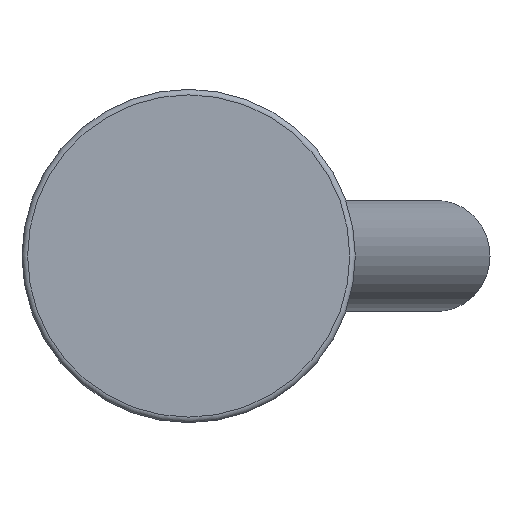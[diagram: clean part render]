
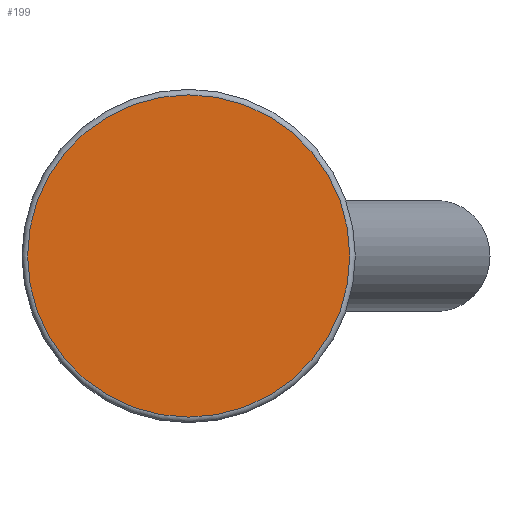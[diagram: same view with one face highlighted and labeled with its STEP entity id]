
A CAD part, front view. The second image highlights one B-rep face of the part: STEP entity #199.
In plain terms, the highlighted planar face has unit normal (0, -1, 0).
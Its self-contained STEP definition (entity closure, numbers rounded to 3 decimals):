
#199 = ADVANCED_FACE( '', ( #391 ), #392, .F. );
#391 = FACE_OUTER_BOUND( '', #591, .T. );
#392 = PLANE( '', #592 );
#591 = EDGE_LOOP( '', ( #897 ) );
#592 = AXIS2_PLACEMENT_3D( '', #898, #899, #900 );
#897 = ORIENTED_EDGE( '', *, *, #1171, .T. );
#898 = CARTESIAN_POINT( '', ( 29., 0., 0. ) );
#899 = DIRECTION( '', ( 0., 1., 0. ) );
#900 = DIRECTION( '', ( 0., 0., 1. ) );
#1171 = EDGE_CURVE( '', #1365, #1365, #1366, .T. );
#1365 = VERTEX_POINT( '', #1756 );
#1366 = CIRCLE( '', #1757, 29. );
#1756 = CARTESIAN_POINT( '', ( 0., 0., -29. ) );
#1757 = AXIS2_PLACEMENT_3D( '', #2060, #2061, #2062 );
#2060 = CARTESIAN_POINT( '', ( 0., 0., 0. ) );
#2061 = DIRECTION( '', ( 0., -1., 0. ) );
#2062 = DIRECTION( '', ( 0., 0., -1. ) );
